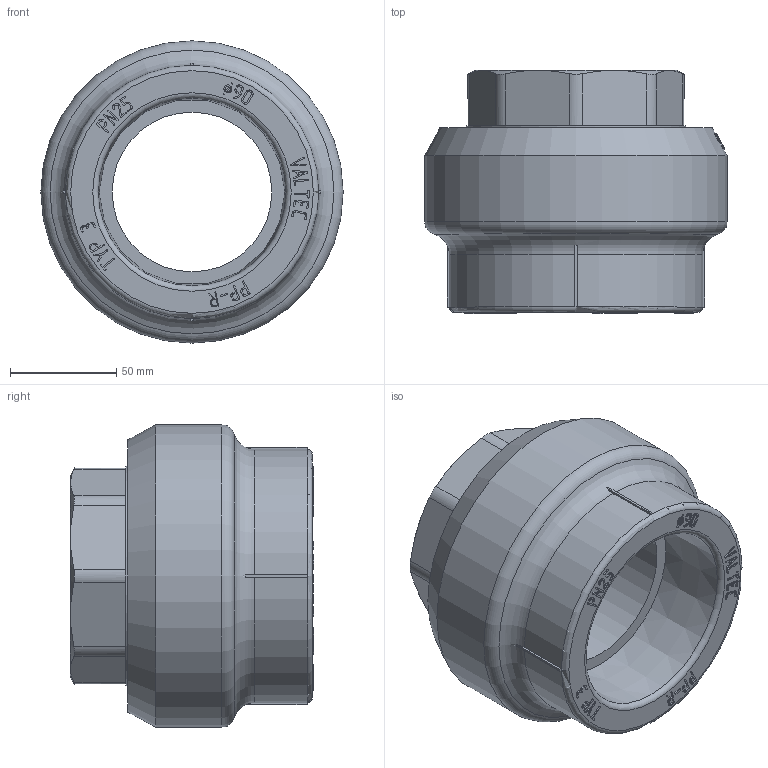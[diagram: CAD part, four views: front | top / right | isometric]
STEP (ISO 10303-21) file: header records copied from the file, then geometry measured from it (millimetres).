
FILE_DESCRIPTION(('STEP AP203'), '1');
FILE_NAME('ÂÐ.753153.021 - VTp.706.0.09011', '', ('UNSPECIFIED'), ('UNSPECIFIED'), 'C3D Converter', 'C3D Toolkit', '');
FILE_SCHEMA(('CONFIG_CONTROL_DESIGN'));
Length unit declared in the file: millimetre
Products named in the file (4): ВР.753153.021; ВР.302639.024.000; ВР.753154.022
Assembly tree (3 placements, depth 3):
  ВР.753153.021
    ВР.302639.024.000
      ВР.753154.022
      (unnamed)
Bounding box: 142 x 114.2 x 142 mm (x, y, z)
Volume: 795408.6 mm3; surface area: 174765 mm2
Topology: 3 solids, 3 shells, 830 faces, 2289 edges, 1523 vertices
Faces by surface type: extrusion 412, plane 363, cylinder 36, cone 14, torus 5
Full cylindrical faces by diameter (mm): 75 x1, 84.927 x1, 95 x2, 103 x9, 114 x10, 142 x1
Entity records: 31298 total; most frequent: CARTESIAN_POINT 11721, ORIENTED_EDGE 4502, DIRECTION 2732, EDGE_CURVE 2251, VECTOR 1574, VERTEX_POINT 1516, B_SPLINE_CURVE_WITH_KNOTS 1349, LINE 1162
